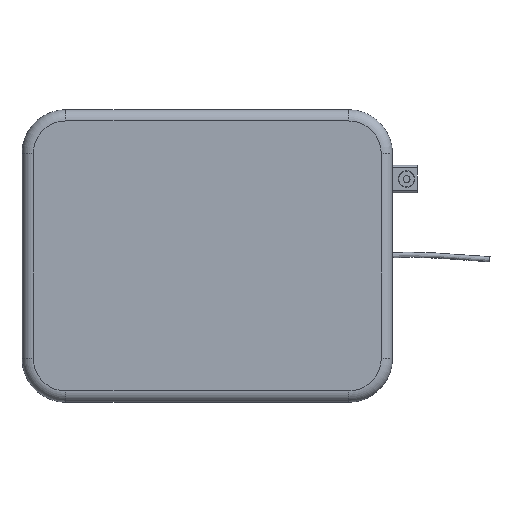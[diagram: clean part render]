
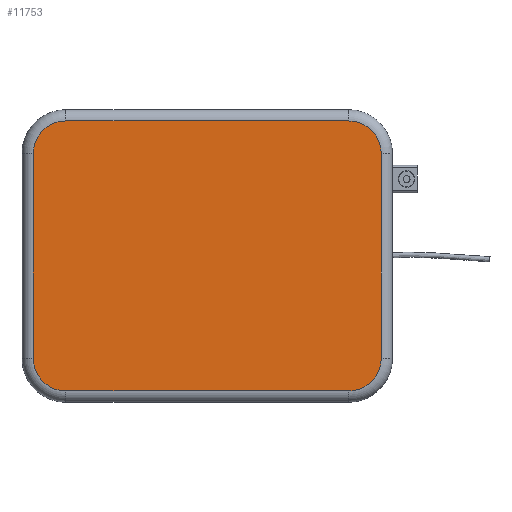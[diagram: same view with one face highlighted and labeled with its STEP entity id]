
A CAD part, top view. The second image highlights one B-rep face of the part: STEP entity #11753.
In plain terms, the highlighted planar face has unit normal (0, 0, 1).
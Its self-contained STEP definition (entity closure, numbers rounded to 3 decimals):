
#413=CIRCLE('',#12403,33.5);
#417=CIRCLE('',#12409,33.5);
#419=CIRCLE('',#12413,33.5);
#423=CIRCLE('',#12419,33.5);
#2188=ORIENTED_EDGE('',*,*,#3706,.T.);
#2189=ORIENTED_EDGE('',*,*,#3727,.T.);
#2190=ORIENTED_EDGE('',*,*,#3722,.T.);
#2191=ORIENTED_EDGE('',*,*,#3730,.T.);
#2192=ORIENTED_EDGE('',*,*,#3716,.T.);
#2193=ORIENTED_EDGE('',*,*,#3734,.T.);
#2194=ORIENTED_EDGE('',*,*,#3712,.T.);
#2195=ORIENTED_EDGE('',*,*,#3732,.T.);
#3706=EDGE_CURVE('',#4629,#4631,#413,.T.);
#3712=EDGE_CURVE('',#4633,#4635,#417,.T.);
#3716=EDGE_CURVE('',#4638,#4636,#419,.T.);
#3722=EDGE_CURVE('',#4642,#4640,#423,.T.);
#3727=EDGE_CURVE('',#4631,#4642,#5482,.T.);
#3730=EDGE_CURVE('',#4640,#4638,#5485,.T.);
#3732=EDGE_CURVE('',#4635,#4629,#5487,.T.);
#3734=EDGE_CURVE('',#4636,#4633,#5489,.T.);
#4629=VERTEX_POINT('',#17481);
#4631=VERTEX_POINT('',#17485);
#4633=VERTEX_POINT('',#17493);
#4635=VERTEX_POINT('',#17497);
#4636=VERTEX_POINT('',#17504);
#4638=VERTEX_POINT('',#17507);
#4640=VERTEX_POINT('',#17516);
#4642=VERTEX_POINT('',#17519);
#5482=LINE('',#17527,#6354);
#5485=LINE('',#17531,#6357);
#5487=LINE('',#17534,#6359);
#5489=LINE('',#17537,#6361);
#6354=VECTOR('',#14350,1000.);
#6357=VECTOR('',#14355,1000.);
#6359=VECTOR('',#14359,1000.);
#6361=VECTOR('',#14363,1000.);
#6987=EDGE_LOOP('',(#2188,#2189,#2190,#2191,#2192,#2193,#2194,#2195));
#7573=FACE_BOUND('',#6987,.T.);
#7964=PLANE('',#12431);
#11753=ADVANCED_FACE('',(#7573),#7964,.T.);
#12403=AXIS2_PLACEMENT_3D('',#17486,#14300,#14301);
#12409=AXIS2_PLACEMENT_3D('',#17498,#14314,#14315);
#12413=AXIS2_PLACEMENT_3D('',#17506,#14324,#14325);
#12419=AXIS2_PLACEMENT_3D('',#17518,#14338,#14339);
#12431=AXIS2_PLACEMENT_3D('',#17542,#14372,#14373);
#14300=DIRECTION('',(0.,0.,1.));
#14301=DIRECTION('',(1.,0.,0.));
#14314=DIRECTION('',(0.,0.,1.));
#14315=DIRECTION('',(1.,0.,0.));
#14324=DIRECTION('',(0.,0.,1.));
#14325=DIRECTION('',(1.,0.,0.));
#14338=DIRECTION('',(0.,0.,1.));
#14339=DIRECTION('',(1.,0.,0.));
#14350=DIRECTION('',(0.,1.,0.));
#14355=DIRECTION('',(-1.,0.,0.));
#14359=DIRECTION('',(1.,0.,0.));
#14363=DIRECTION('',(0.,-1.,0.));
#14372=DIRECTION('',(0.,0.,1.));
#14373=DIRECTION('',(1.,0.,0.));
#17481=CARTESIAN_POINT('',(161.5,-138.5,62.25));
#17485=CARTESIAN_POINT('',(195.,-105.,62.25));
#17486=CARTESIAN_POINT('',(161.5,-105.,62.25));
#17493=CARTESIAN_POINT('',(-162.,-105.,62.25));
#17497=CARTESIAN_POINT('',(-128.5,-138.5,62.25));
#17498=CARTESIAN_POINT('',(-128.5,-105.,62.25));
#17504=CARTESIAN_POINT('',(-162.,105.,62.25));
#17506=CARTESIAN_POINT('',(-128.5,105.,62.25));
#17507=CARTESIAN_POINT('',(-128.5,138.5,62.25));
#17516=CARTESIAN_POINT('',(161.5,138.5,62.25));
#17518=CARTESIAN_POINT('',(161.5,105.,62.25));
#17519=CARTESIAN_POINT('',(195.,105.,62.25));
#17527=CARTESIAN_POINT('',(195.,150.,62.25));
#17531=CARTESIAN_POINT('',(206.5,138.5,62.25));
#17534=CARTESIAN_POINT('',(206.5,-138.5,62.25));
#17537=CARTESIAN_POINT('',(-162.,150.,62.25));
#17542=CARTESIAN_POINT('',(206.5,150.,62.25));
